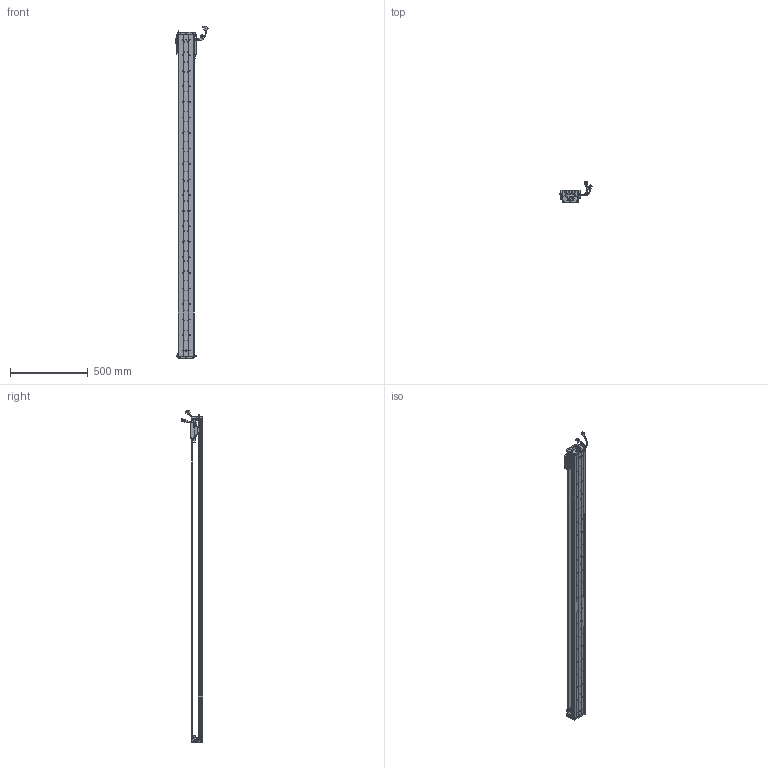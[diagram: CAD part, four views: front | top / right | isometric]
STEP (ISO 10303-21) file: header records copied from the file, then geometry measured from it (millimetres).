
FILE_DESCRIPTION (( 'STEP AP203' ), '1' );
FILE_NAME ('Z1-RY100D-1-L500-B-K.SLDASM_1900.step', '2021-05-17T01:42:50', ( '盈信电脑' ), ( '东莞市道滘镇水果街19号' ), 'SwSTEP 2.0', 'SolidWorks 2016', '' );
FILE_SCHEMA (( 'CONFIG_CONTROL_DESIGN' ));
Length unit declared in the file: millimetre
Products named in the file (36): 100-Z-臏賑輸盄裔(21遴); Z-RY100D詩湍狟揤裔; HOLDER0; SHIELDPLATE; Z-100詩湍傷裔啣; LABEL-Part-1; Z-RY100D覜茼んえ; HARNESS; SCREW-M1.6-3; SCREW-M1.6; SCALE; SCALE-Part-2; 榋妏寠巭燃_暯_M2_2; SCREW-M1.6-1; 覜茼ん672; Z-RY100D詩湍奻揤裔; LABEL; 080黍杅芛假蚾釱21遴; SCREW-M1.7-1; COVER-Part-1; Z1-RY100D-500-倰第菁釱_1900; COVER; SCREW-M1.6-2; Z1-RY100-L500詩湍90mm遵_1900; SEAL; PSLH080_PSLF2; SEAL-Part-1; 140雄赽晤鎢ん堤盄; 140蚥薯蝶輸; HARNESS-Part-2; Z1-RY100铝滑块（21款）; SCALE-Part-1; Z1-RY100D-1-L500-B-K.SLDASM_1900; PBU_SHEET; SCREW-M1.7; HARNESS-Part-1
Assembly tree (44 placements, depth 4):
  Z1-RY100D-1-L500-B-K.SLDASM_1900
    Z1-RY100D-500-倰第菁釱_1900
    Z1-RY100铝滑块（21款）
    PSLH080_PSLF2
      SCALE
        SCALE-Part-1
        SCALE-Part-2
      HARNESS
        HARNESS-Part-1
        HARNESS-Part-2
      LABEL
        LABEL-Part-1
      COVER
        COVER-Part-1
      SEAL
        SEAL-Part-1
      榋妏寠巭燃_暯_M2_2
      SHIELDPLATE
      SCREW-M1.7
      SCREW-M1.7-1
      PBU_SHEET
      SCREW-M1.6
      SCREW-M1.6-1
      SCREW-M1.6-2
      SCREW-M1.6-3
      HOLDER0
    080黍杅芛假蚾釱21遴
    Z-100詩湍傷裔啣  x2
    140蚥薯蝶輸  x2
    覜茼ん672  x4
    Z-RY100D覜茼んえ  x3
    100-Z-臏賑輸盄裔(21遴)
    140雄赽晤鎢ん堤盄
    Z1-RY100-L500詩湍90mm遵_1900
    Z-RY100D詩湍狟揤裔  x2
    Z-RY100D詩湍奻揤裔  x2
Bounding box: 205.84 x 136.11 x 2135.43 mm (x, y, z)
Volume: 3830983.4 mm3; surface area: 1530728 mm2
Topology: 39 solids, 39 shells, 2870 faces, 7759 edges, 4956 vertices
Faces by surface type: cylinder 1322, plane 1216, cone 210, torus 69, bspline 53
Entity records: 78995 total; most frequent: CARTESIAN_POINT 16653, DIRECTION 12601, ORIENTED_EDGE 11950, EDGE_CURVE 5975, AXIS2_PLACEMENT_3D 4688, VERTEX_POINT 3864, LINE 3225, VECTOR 3225
